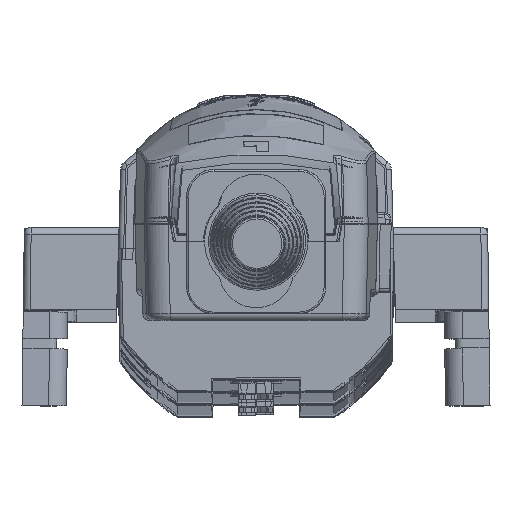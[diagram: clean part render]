
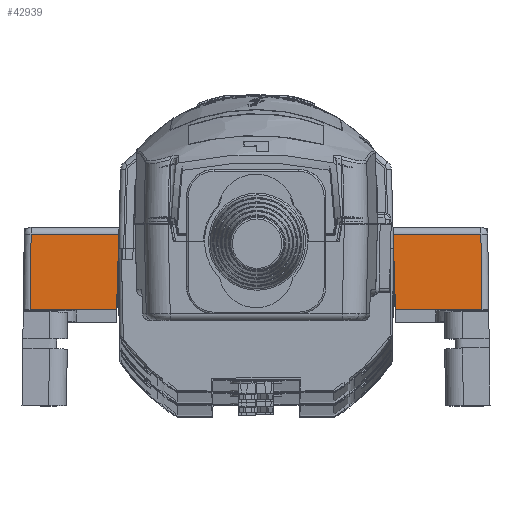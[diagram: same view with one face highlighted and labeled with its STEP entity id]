
A CAD part, top view. The second image highlights one B-rep face of the part: STEP entity #42939.
In plain terms, the highlighted planar face has unit normal (0, 0.026, 1) as drawn and (0, 0.013, 1) by its records, which use the part's own axes.
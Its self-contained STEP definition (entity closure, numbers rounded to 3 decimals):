
#11969=ORIENTED_EDGE('',*,*,#21802,.T.);
#11970=ORIENTED_EDGE('',*,*,#21803,.T.);
#11971=ORIENTED_EDGE('',*,*,#21804,.F.);
#11972=ORIENTED_EDGE('',*,*,#21787,.T.);
#11973=ORIENTED_EDGE('',*,*,#21805,.T.);
#11974=ORIENTED_EDGE('',*,*,#21806,.F.);
#11975=ORIENTED_EDGE('',*,*,#21790,.F.);
#11976=ORIENTED_EDGE('',*,*,#21807,.T.);
#21787=EDGE_CURVE('',#27211,#27210,#30639,.T.);
#21790=EDGE_CURVE('',#27212,#27213,#30641,.T.);
#21802=EDGE_CURVE('',#27219,#27220,#30650,.T.);
#21803=EDGE_CURVE('',#27220,#27221,#30651,.T.);
#21804=EDGE_CURVE('',#27211,#27221,#30652,.T.);
#21805=EDGE_CURVE('',#27210,#27222,#30653,.T.);
#21806=EDGE_CURVE('',#27213,#27222,#30654,.T.);
#21807=EDGE_CURVE('',#27212,#27219,#30655,.T.);
#27210=VERTEX_POINT('',#73350);
#27211=VERTEX_POINT('',#73352);
#27212=VERTEX_POINT('',#73356);
#27213=VERTEX_POINT('',#73358);
#27219=VERTEX_POINT('',#73382);
#27220=VERTEX_POINT('',#73383);
#27221=VERTEX_POINT('',#73385);
#27222=VERTEX_POINT('',#73388);
#30639=LINE('',#73351,#33903);
#30641=LINE('',#73357,#33905);
#30650=LINE('',#73381,#33914);
#30651=LINE('',#73384,#33915);
#30652=LINE('',#73386,#33916);
#30653=LINE('',#73387,#33917);
#30654=LINE('',#73389,#33918);
#30655=LINE('',#73390,#33919);
#33903=VECTOR('',#53130,1000.);
#33905=VECTOR('',#53136,1000.);
#33914=VECTOR('',#53163,1000.);
#33915=VECTOR('',#53164,1000.);
#33916=VECTOR('',#53165,1000.);
#33917=VECTOR('',#53166,1000.);
#33918=VECTOR('',#53167,1000.);
#33919=VECTOR('',#53168,1000.);
#36729=EDGE_LOOP('',(#11969,#11970,#11971,#11972,#11973,#11974,#11975,#11976));
#39414=FACE_BOUND('',#36729,.T.);
#41243=PLANE('',#46142);
#42939=ADVANCED_FACE('',(#39414),#41243,.T.);
#46142=AXIS2_PLACEMENT_3D('',#73380,#53161,#53162);
#53130=DIRECTION('',(1.,0.,0.));
#53136=DIRECTION('',(0.013,-1.,0.013));
#53161=DIRECTION('',(0.,0.013,1.));
#53162=DIRECTION('',(0.,-1.,0.013));
#53163=DIRECTION('',(-0.013,-1.,0.013));
#53164=DIRECTION('',(1.,0.,0.));
#53165=DIRECTION('',(-0.013,-1.,0.013));
#53166=DIRECTION('',(0.013,-1.,0.013));
#53167=DIRECTION('',(-1.,0.,0.));
#53168=DIRECTION('',(-1.,0.,0.));
#73350=CARTESIAN_POINT('',(40.295,5.5,14.047));
#73351=CARTESIAN_POINT('',(-67.5,5.5,14.047));
#73352=CARTESIAN_POINT('',(-40.295,5.5,14.047));
#73356=CARTESIAN_POINT('',(65.395,13.526,13.942));
#73357=CARTESIAN_POINT('',(65.501,5.474,14.048));
#73358=CARTESIAN_POINT('',(65.683,-8.5,14.231));
#73380=CARTESIAN_POINT('',(-67.5,5.5,14.047));
#73381=CARTESIAN_POINT('',(-65.501,5.474,14.048));
#73382=CARTESIAN_POINT('',(-65.395,13.526,13.942));
#73383=CARTESIAN_POINT('',(-65.683,-8.5,14.231));
#73384=CARTESIAN_POINT('',(-67.5,-8.5,14.231));
#73385=CARTESIAN_POINT('',(-40.479,-8.5,14.231));
#73386=CARTESIAN_POINT('',(-40.3,5.144,14.052));
#73387=CARTESIAN_POINT('',(40.3,5.144,14.052));
#73388=CARTESIAN_POINT('',(40.479,-8.5,14.231));
#73389=CARTESIAN_POINT('',(67.5,-8.5,14.231));
#73390=CARTESIAN_POINT('',(-65.369,13.526,13.942));
